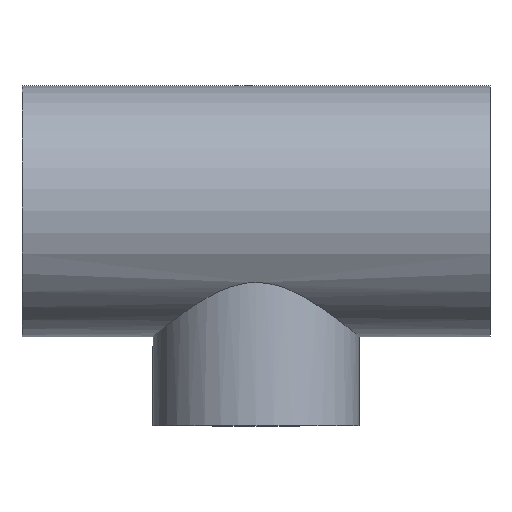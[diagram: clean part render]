
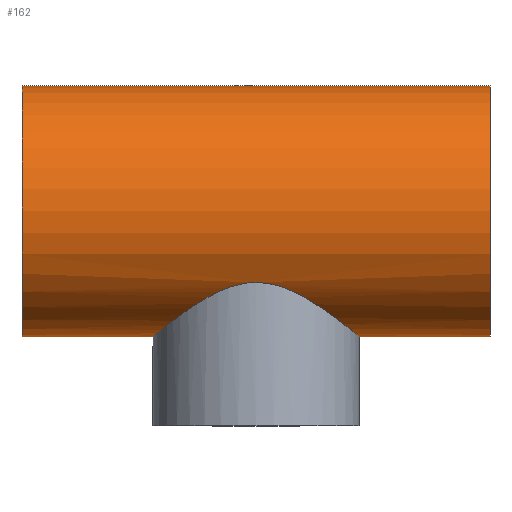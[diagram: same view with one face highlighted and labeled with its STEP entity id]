
A CAD part, top view. The second image highlights one B-rep face of the part: STEP entity #162.
In plain terms, the highlighted cylindrical face has radius 45 mm (diameter 90 mm), a full revolution.
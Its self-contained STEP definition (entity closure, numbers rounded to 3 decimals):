
#16=B_SPLINE_CURVE_WITH_KNOTS('',3,(#344,#345,#346,#347,#348,#349,#350,
#351,#352,#353,#354,#355,#356,#357,#358,#359,#360,#361,#362,#363,#364,#365,
#366,#367,#368,#369,#370,#371,#372,#373,#374,#375,#376,#377,#378,#379,#380,
#381,#382,#383,#384,#385,#386,#387,#388,#389,#390,#391,#392,#393,#394,#395,
#396,#397,#398,#399,#400,#401,#402,#403,#404,#405,#406,#407,#408,#409),
 .UNSPECIFIED.,.T.,.F.,(4,2,2,2,2,2,2,2,2,2,2,2,2,2,2,2,2,2,2,2,2,2,2,2,
2,2,2,2,2,2,2,2,4),(0.,0.766,1.533,2.299,
3.065,3.803,4.541,5.279,6.017,
6.754,7.492,8.23,8.968,9.734,
10.5,11.267,12.033,12.799,13.566,
14.332,15.098,15.836,16.574,17.312,
18.05,18.787,19.525,20.263,21.001,
21.767,22.534,23.3,24.066),
 .UNSPECIFIED.);
#32=FACE_BOUND('',#69,.T.);
#33=FACE_BOUND('',#70,.T.);
#46=FACE_OUTER_BOUND('',#68,.T.);
#68=EDGE_LOOP('',(#136));
#69=EDGE_LOOP('',(#137));
#70=EDGE_LOOP('',(#138));
#88=CIRCLE('',#187,45.);
#89=CIRCLE('',#188,45.);
#101=VERTEX_POINT('',#341);
#102=VERTEX_POINT('',#343);
#103=VERTEX_POINT('',#410);
#115=EDGE_CURVE('',#101,#101,#88,.T.);
#116=EDGE_CURVE('',#102,#102,#16,.T.);
#117=EDGE_CURVE('',#103,#103,#89,.T.);
#136=ORIENTED_EDGE('',*,*,#115,.F.);
#137=ORIENTED_EDGE('',*,*,#116,.T.);
#138=ORIENTED_EDGE('',*,*,#117,.F.);
#152=CYLINDRICAL_SURFACE('',#186,45.);
#162=ADVANCED_FACE('',(#46,#32,#33),#152,.T.);
#186=AXIS2_PLACEMENT_3D('',#340,#230,#231);
#187=AXIS2_PLACEMENT_3D('',#342,#232,#233);
#188=AXIS2_PLACEMENT_3D('',#411,#234,#235);
#230=DIRECTION('center_axis',(1.,0.,0.));
#231=DIRECTION('ref_axis',(0.,-1.,0.));
#232=DIRECTION('center_axis',(-1.,0.,0.));
#233=DIRECTION('ref_axis',(0.,-1.,0.));
#234=DIRECTION('center_axis',(1.,0.,0.));
#235=DIRECTION('ref_axis',(0.,-1.,0.));
#340=CARTESIAN_POINT('Origin',(0.,0.,0.));
#341=CARTESIAN_POINT('',(-84.,45.,0.));
#342=CARTESIAN_POINT('Origin',(-84.,0.,0.));
#343=CARTESIAN_POINT('',(0.,-25.612,37.));
#344=CARTESIAN_POINT('Ctrl Pts',(0.,-25.612,
37.));
#345=CARTESIAN_POINT('Ctrl Pts',(2.554,-25.612,37.));
#346=CARTESIAN_POINT('Ctrl Pts',(5.068,-26.005,36.735));
#347=CARTESIAN_POINT('Ctrl Pts',(9.923,-27.369,35.731));
#348=CARTESIAN_POINT('Ctrl Pts',(12.266,-28.332,34.991));
#349=CARTESIAN_POINT('Ctrl Pts',(16.718,-30.524,33.096));
#350=CARTESIAN_POINT('Ctrl Pts',(18.829,-31.753,31.938));
#351=CARTESIAN_POINT('Ctrl Pts',(22.746,-34.221,29.278));
#352=CARTESIAN_POINT('Ctrl Pts',(24.551,-35.461,27.775));
#353=CARTESIAN_POINT('Ctrl Pts',(27.715,-37.722,24.611));
#354=CARTESIAN_POINT('Ctrl Pts',(29.203,-38.834,22.843));
#355=CARTESIAN_POINT('Ctrl Pts',(31.875,-40.881,18.937));
#356=CARTESIAN_POINT('Ctrl Pts',(33.059,-41.816,16.799));
#357=CARTESIAN_POINT('Ctrl Pts',(34.994,-43.362,12.266));
#358=CARTESIAN_POINT('Ctrl Pts',(35.748,-43.975,9.867));
#359=CARTESIAN_POINT('Ctrl Pts',(36.751,-44.794,4.963));
#360=CARTESIAN_POINT('Ctrl Pts',(37.,-45.,2.459));
#361=CARTESIAN_POINT('Ctrl Pts',(37.,-45.,-2.459));
#362=CARTESIAN_POINT('Ctrl Pts',(36.751,-44.794,-4.963));
#363=CARTESIAN_POINT('Ctrl Pts',(35.748,-43.975,-9.867));
#364=CARTESIAN_POINT('Ctrl Pts',(34.994,-43.362,-12.266));
#365=CARTESIAN_POINT('Ctrl Pts',(33.059,-41.816,-16.799));
#366=CARTESIAN_POINT('Ctrl Pts',(31.875,-40.881,-18.937));
#367=CARTESIAN_POINT('Ctrl Pts',(29.203,-38.834,-22.843));
#368=CARTESIAN_POINT('Ctrl Pts',(27.715,-37.722,-24.611));
#369=CARTESIAN_POINT('Ctrl Pts',(24.551,-35.461,-27.775));
#370=CARTESIAN_POINT('Ctrl Pts',(22.746,-34.221,-29.278));
#371=CARTESIAN_POINT('Ctrl Pts',(18.829,-31.753,-31.938));
#372=CARTESIAN_POINT('Ctrl Pts',(16.718,-30.524,-33.096));
#373=CARTESIAN_POINT('Ctrl Pts',(12.266,-28.332,-34.991));
#374=CARTESIAN_POINT('Ctrl Pts',(9.923,-27.369,-35.731));
#375=CARTESIAN_POINT('Ctrl Pts',(5.068,-26.005,-36.735));
#376=CARTESIAN_POINT('Ctrl Pts',(2.554,-25.612,-37.));
#377=CARTESIAN_POINT('Ctrl Pts',(-2.554,-25.612,-37.));
#378=CARTESIAN_POINT('Ctrl Pts',(-5.068,-26.005,-36.735));
#379=CARTESIAN_POINT('Ctrl Pts',(-9.923,-27.369,-35.731));
#380=CARTESIAN_POINT('Ctrl Pts',(-12.266,-28.332,-34.991));
#381=CARTESIAN_POINT('Ctrl Pts',(-16.718,-30.524,-33.096));
#382=CARTESIAN_POINT('Ctrl Pts',(-18.829,-31.753,-31.938));
#383=CARTESIAN_POINT('Ctrl Pts',(-22.746,-34.221,-29.278));
#384=CARTESIAN_POINT('Ctrl Pts',(-24.551,-35.461,-27.775));
#385=CARTESIAN_POINT('Ctrl Pts',(-27.715,-37.722,-24.611));
#386=CARTESIAN_POINT('Ctrl Pts',(-29.203,-38.834,-22.843));
#387=CARTESIAN_POINT('Ctrl Pts',(-31.875,-40.881,-18.937));
#388=CARTESIAN_POINT('Ctrl Pts',(-33.059,-41.816,-16.799));
#389=CARTESIAN_POINT('Ctrl Pts',(-34.994,-43.362,-12.266));
#390=CARTESIAN_POINT('Ctrl Pts',(-35.748,-43.975,-9.867));
#391=CARTESIAN_POINT('Ctrl Pts',(-36.751,-44.794,-4.963));
#392=CARTESIAN_POINT('Ctrl Pts',(-37.,-45.,-2.459));
#393=CARTESIAN_POINT('Ctrl Pts',(-37.,-45.,2.459));
#394=CARTESIAN_POINT('Ctrl Pts',(-36.751,-44.794,4.963));
#395=CARTESIAN_POINT('Ctrl Pts',(-35.748,-43.975,9.867));
#396=CARTESIAN_POINT('Ctrl Pts',(-34.994,-43.362,12.266));
#397=CARTESIAN_POINT('Ctrl Pts',(-33.059,-41.816,16.799));
#398=CARTESIAN_POINT('Ctrl Pts',(-31.875,-40.881,18.937));
#399=CARTESIAN_POINT('Ctrl Pts',(-29.203,-38.834,22.843));
#400=CARTESIAN_POINT('Ctrl Pts',(-27.715,-37.722,24.611));
#401=CARTESIAN_POINT('Ctrl Pts',(-24.551,-35.461,27.775));
#402=CARTESIAN_POINT('Ctrl Pts',(-22.746,-34.221,29.278));
#403=CARTESIAN_POINT('Ctrl Pts',(-18.829,-31.753,31.938));
#404=CARTESIAN_POINT('Ctrl Pts',(-16.718,-30.524,33.096));
#405=CARTESIAN_POINT('Ctrl Pts',(-12.266,-28.332,34.991));
#406=CARTESIAN_POINT('Ctrl Pts',(-9.923,-27.369,35.731));
#407=CARTESIAN_POINT('Ctrl Pts',(-5.068,-26.005,36.735));
#408=CARTESIAN_POINT('Ctrl Pts',(-2.554,-25.612,37.));
#409=CARTESIAN_POINT('Ctrl Pts',(0.,-25.612,
37.));
#410=CARTESIAN_POINT('',(84.,45.,0.));
#411=CARTESIAN_POINT('Origin',(84.,0.,0.));
